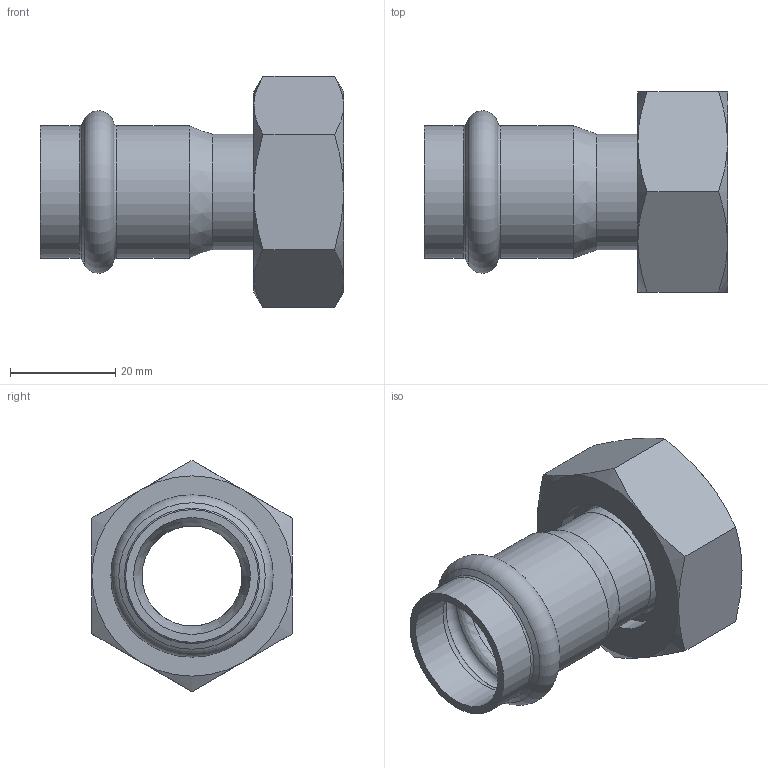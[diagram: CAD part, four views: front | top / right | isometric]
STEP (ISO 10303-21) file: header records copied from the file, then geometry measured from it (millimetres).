
FILE_DESCRIPTION((''),'2;1');
FILE_NAME('G:\Nirosan-Schmiedefeld\Technics\CAD\Bauteile VA\022\69359m221(2).stp','2011-10-05T11:53:26',('herberg'),(''),'Autodesk Inventor 2009','Autodesk Inventor 2009','');
FILE_SCHEMA(('AUTOMOTIVE_DESIGN { 1 0 10303 214 1 1 1 1 }'));
Length unit declared in the file: millimetre
Products named in the file (5): 69359m221(2); HM_6924322(1); R221(0); SM221(4); FD_3021_EPDM(0)
Assembly tree (4 placements, depth 2):
  69359m221(2)
    HM_6924322(1)
    R221(0)
    SM221(4)
    FD_3021_EPDM(0)
Bounding box: 57.5 x 38 x 43.88 mm (x, y, z)
Volume: 16855.3 mm3; surface area: 14527.3 mm2
Topology: 4 solids, 4 shells, 54 faces, 106 edges, 62 vertices
Faces by surface type: cone 18, plane 15, cylinder 11, bspline 8, torus 2
Full cylindrical faces by diameter (mm): 19 x2, 21 x1, 22 x2, 22.15 x2, 25.15 x2, 29 x1, 30 x1
Entity records: 1586 total; most frequent: CARTESIAN_POINT 504, DIRECTION 210, ORIENTED_EDGE 154, AXIS2_PLACEMENT_3D 102, EDGE_LOOP 90, EDGE_CURVE 77, VERTEX_POINT 59, FACE_OUTER_BOUND 54
